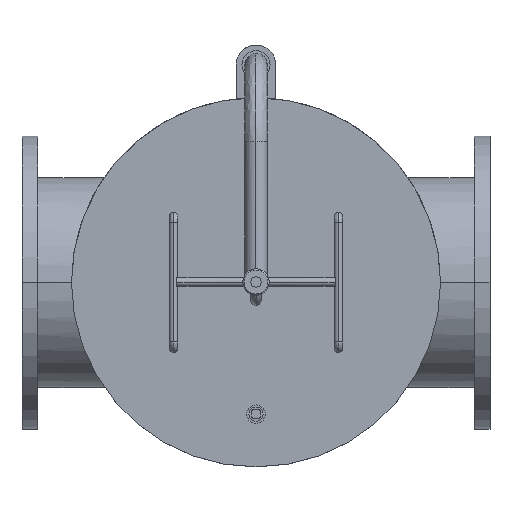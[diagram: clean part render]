
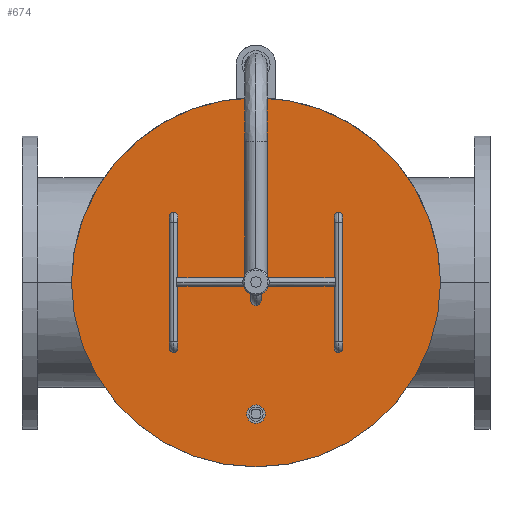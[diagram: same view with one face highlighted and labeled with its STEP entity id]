
A CAD part, top view. The second image highlights one B-rep face of the part: STEP entity #674.
In plain terms, the highlighted planar face has unit normal (0, 0, 1).
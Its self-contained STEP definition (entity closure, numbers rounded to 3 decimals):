
#674=ADVANCED_FACE('',(#1461,#1462,#1463,#1464,#1465,#1466,#1467,#1468),#1460,.T.);
#1460=PLANE('',#5721);
#1461=FACE_OUTER_BOUND('',#5722,.T.);
#1462=FACE_BOUND('',#5723,.T.);
#1463=FACE_BOUND('',#5724,.T.);
#1464=FACE_BOUND('',#5725,.T.);
#1465=FACE_BOUND('',#5726,.T.);
#1466=FACE_BOUND('',#5727,.T.);
#1467=FACE_BOUND('',#5728,.T.);
#1468=FACE_BOUND('',#5729,.T.);
#5718=CARTESIAN_POINT('',(-290.,-494.974,351.));
#5719=DIRECTION('',(0.,0.,1.));
#5720=DIRECTION('',(1.,0.,0.));
#5721=AXIS2_PLACEMENT_3D('',#5718,#5719,#5720);
#5722=EDGE_LOOP('',(#7685,#7686));
#5723=EDGE_LOOP('',(#7687,#7688));
#5724=EDGE_LOOP('',(#7689,#7690));
#5725=EDGE_LOOP('',(#7691,#7692));
#5726=EDGE_LOOP('',(#7693,#7694));
#5727=EDGE_LOOP('',(#7695,#7696));
#5728=EDGE_LOOP('',(#7697,#7698));
#5729=EDGE_LOOP('',(#7699,#7700));
#7685=ORIENTED_EDGE('',*,*,#9061,.F.);
#7686=ORIENTED_EDGE('',*,*,#9062,.F.);
#7687=ORIENTED_EDGE('',*,*,#9063,.F.);
#7688=ORIENTED_EDGE('',*,*,#9064,.F.);
#7689=ORIENTED_EDGE('',*,*,#9065,.F.);
#7690=ORIENTED_EDGE('',*,*,#9066,.F.);
#7691=ORIENTED_EDGE('',*,*,#9067,.F.);
#7692=ORIENTED_EDGE('',*,*,#9068,.F.);
#7693=ORIENTED_EDGE('',*,*,#9069,.F.);
#7694=ORIENTED_EDGE('',*,*,#9070,.F.);
#7695=ORIENTED_EDGE('',*,*,#9071,.F.);
#7696=ORIENTED_EDGE('',*,*,#9072,.F.);
#7697=ORIENTED_EDGE('',*,*,#9073,.F.);
#7698=ORIENTED_EDGE('',*,*,#9074,.F.);
#7699=ORIENTED_EDGE('',*,*,#9075,.F.);
#7700=ORIENTED_EDGE('',*,*,#9076,.F.);
#9061=EDGE_CURVE('',#10664,#10665,#10666,.T.);
#9062=EDGE_CURVE('',#10665,#10664,#10672,.T.);
#9063=EDGE_CURVE('',#10678,#10679,#10680,.T.);
#9064=EDGE_CURVE('',#10679,#10678,#10686,.T.);
#9065=EDGE_CURVE('',#10692,#10693,#10694,.T.);
#9066=EDGE_CURVE('',#10693,#10692,#10700,.T.);
#9067=EDGE_CURVE('',#10706,#10707,#10708,.T.);
#9068=EDGE_CURVE('',#10707,#10706,#10714,.T.);
#9069=EDGE_CURVE('',#10720,#10721,#10722,.T.);
#9070=EDGE_CURVE('',#10721,#10720,#10728,.T.);
#9071=EDGE_CURVE('',#10734,#10735,#10736,.T.);
#9072=EDGE_CURVE('',#10735,#10734,#10742,.T.);
#9073=EDGE_CURVE('',#10748,#10749,#10750,.T.);
#9074=EDGE_CURVE('',#10749,#10748,#10756,.T.);
#9075=EDGE_CURVE('',#10762,#10763,#10764,.T.);
#9076=EDGE_CURVE('',#10763,#10762,#10770,.T.);
#10664=VERTEX_POINT('',#16070);
#10665=VERTEX_POINT('',#16071);
#10666=CIRCLE('',#16075,280.);
#10672=CIRCLE('',#16079,280.);
#10678=VERTEX_POINT('',#16080);
#10679=VERTEX_POINT('',#16081);
#10680=CIRCLE('',#16085,2.);
#10686=CIRCLE('',#16089,2.);
#10692=VERTEX_POINT('',#16090);
#10693=VERTEX_POINT('',#16091);
#10694=CIRCLE('',#16095,2.);
#10700=CIRCLE('',#16099,2.);
#10706=VERTEX_POINT('',#16100);
#10707=VERTEX_POINT('',#16101);
#10708=CIRCLE('',#16105,2.);
#10714=CIRCLE('',#16109,2.);
#10720=VERTEX_POINT('',#16110);
#10721=VERTEX_POINT('',#16111);
#10722=CIRCLE('',#16115,2.);
#10728=CIRCLE('',#16119,2.);
#10734=VERTEX_POINT('',#16120);
#10735=VERTEX_POINT('',#16121);
#10736=CIRCLE('',#16125,2.);
#10742=CIRCLE('',#16129,2.);
#10748=VERTEX_POINT('',#16130);
#10749=VERTEX_POINT('',#16131);
#10750=CIRCLE('',#16135,14.);
#10756=CIRCLE('',#16139,14.);
#10762=VERTEX_POINT('',#16140);
#10763=VERTEX_POINT('',#16141);
#10764=CIRCLE('',#16145,2.);
#10770=CIRCLE('',#16149,2.);
#16070=CARTESIAN_POINT('',(280.,0.,351.));
#16071=CARTESIAN_POINT('',(-280.,0.,351.));
#16072=CARTESIAN_POINT('',(0.,0.,351.));
#16073=DIRECTION('',(0.,0.,-1.));
#16074=DIRECTION('',(-1.,0.,0.));
#16075=AXIS2_PLACEMENT_3D('',#16072,#16073,#16074);
#16076=CARTESIAN_POINT('',(0.,0.,351.));
#16077=DIRECTION('',(0.,0.,-1.));
#16078=DIRECTION('',(-1.,0.,0.));
#16079=AXIS2_PLACEMENT_3D('',#16076,#16077,#16078);
#16080=CARTESIAN_POINT('',(-123.,-100.,351.));
#16081=CARTESIAN_POINT('',(-127.,-100.,351.));
#16082=CARTESIAN_POINT('',(-125.,-100.,351.));
#16083=DIRECTION('',(0.,0.,1.));
#16084=DIRECTION('',(-1.,0.,0.));
#16085=AXIS2_PLACEMENT_3D('',#16082,#16083,#16084);
#16086=CARTESIAN_POINT('',(-125.,-100.,351.));
#16087=DIRECTION('',(0.,0.,1.));
#16088=DIRECTION('',(-1.,0.,0.));
#16089=AXIS2_PLACEMENT_3D('',#16086,#16087,#16088);
#16090=CARTESIAN_POINT('',(-18.,0.,351.));
#16091=CARTESIAN_POINT('',(-22.,0.,351.));
#16092=CARTESIAN_POINT('',(-20.,0.,351.));
#16093=DIRECTION('',(0.,0.,1.));
#16094=DIRECTION('',(-1.,0.,0.));
#16095=AXIS2_PLACEMENT_3D('',#16092,#16093,#16094);
#16096=CARTESIAN_POINT('',(-20.,0.,351.));
#16097=DIRECTION('',(0.,0.,1.));
#16098=DIRECTION('',(-1.,0.,0.));
#16099=AXIS2_PLACEMENT_3D('',#16096,#16097,#16098);
#16100=CARTESIAN_POINT('',(22.,0.,351.));
#16101=CARTESIAN_POINT('',(18.,0.,351.));
#16102=CARTESIAN_POINT('',(20.,0.,351.));
#16103=DIRECTION('',(0.,0.,1.));
#16104=DIRECTION('',(-1.,0.,0.));
#16105=AXIS2_PLACEMENT_3D('',#16102,#16103,#16104);
#16106=CARTESIAN_POINT('',(20.,0.,351.));
#16107=DIRECTION('',(0.,0.,1.));
#16108=DIRECTION('',(-1.,0.,0.));
#16109=AXIS2_PLACEMENT_3D('',#16106,#16107,#16108);
#16110=CARTESIAN_POINT('',(127.,-100.,351.));
#16111=CARTESIAN_POINT('',(123.,-100.,351.));
#16112=CARTESIAN_POINT('',(125.,-100.,351.));
#16113=DIRECTION('',(0.,0.,1.));
#16114=DIRECTION('',(-1.,0.,0.));
#16115=AXIS2_PLACEMENT_3D('',#16112,#16113,#16114);
#16116=CARTESIAN_POINT('',(125.,-100.,351.));
#16117=DIRECTION('',(0.,0.,1.));
#16118=DIRECTION('',(-1.,0.,0.));
#16119=AXIS2_PLACEMENT_3D('',#16116,#16117,#16118);
#16120=CARTESIAN_POINT('',(127.,100.,351.));
#16121=CARTESIAN_POINT('',(123.,100.,351.));
#16122=CARTESIAN_POINT('',(125.,100.,351.));
#16123=DIRECTION('',(0.,0.,1.));
#16124=DIRECTION('',(-1.,0.,0.));
#16125=AXIS2_PLACEMENT_3D('',#16122,#16123,#16124);
#16126=CARTESIAN_POINT('',(125.,100.,351.));
#16127=DIRECTION('',(0.,0.,1.));
#16128=DIRECTION('',(-1.,0.,0.));
#16129=AXIS2_PLACEMENT_3D('',#16126,#16127,#16128);
#16130=CARTESIAN_POINT('',(-14.,-200.,351.));
#16131=CARTESIAN_POINT('',(14.,-200.,351.));
#16132=CARTESIAN_POINT('',(0.,-200.,351.));
#16133=DIRECTION('',(0.,0.,1.));
#16134=DIRECTION('',(1.,0.,0.));
#16135=AXIS2_PLACEMENT_3D('',#16132,#16133,#16134);
#16136=CARTESIAN_POINT('',(0.,-200.,351.));
#16137=DIRECTION('',(0.,0.,1.));
#16138=DIRECTION('',(1.,0.,0.));
#16139=AXIS2_PLACEMENT_3D('',#16136,#16137,#16138);
#16140=CARTESIAN_POINT('',(-123.,100.,351.));
#16141=CARTESIAN_POINT('',(-127.,100.,351.));
#16142=CARTESIAN_POINT('',(-125.,100.,351.));
#16143=DIRECTION('',(0.,0.,1.));
#16144=DIRECTION('',(-1.,0.,0.));
#16145=AXIS2_PLACEMENT_3D('',#16142,#16143,#16144);
#16146=CARTESIAN_POINT('',(-125.,100.,351.));
#16147=DIRECTION('',(0.,0.,1.));
#16148=DIRECTION('',(-1.,0.,0.));
#16149=AXIS2_PLACEMENT_3D('',#16146,#16147,#16148);
